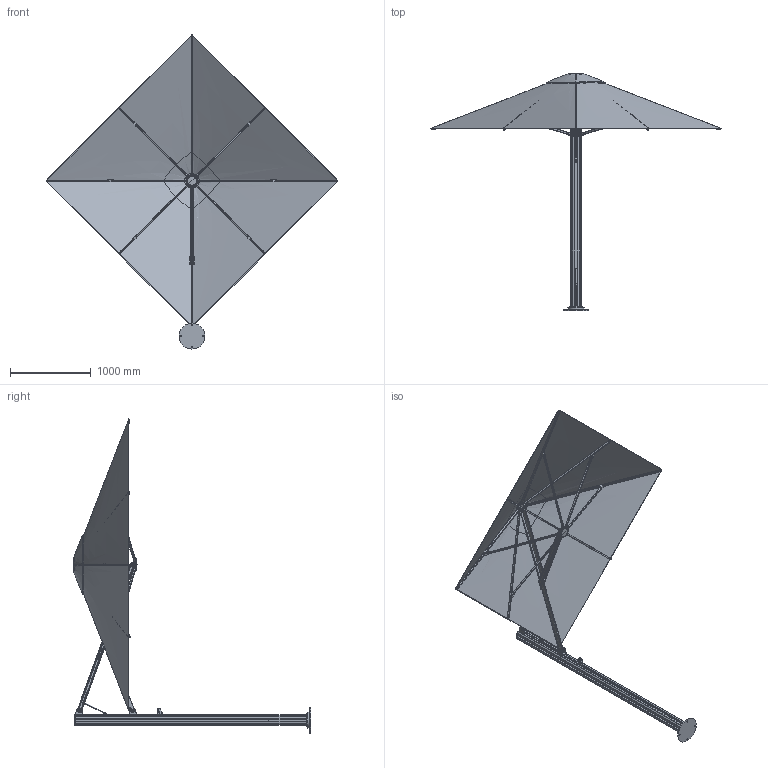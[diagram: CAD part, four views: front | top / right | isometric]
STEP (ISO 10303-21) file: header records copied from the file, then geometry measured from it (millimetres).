
FILE_DESCRIPTION (( 'STEP AP203' ), '1' );
FILE_NAME ('Unity 2.5M CNR SQ Uno.STEP', '2020-06-18T22:19:11', ( '' ), ( '' ), 'SwSTEP 2.0', 'SolidWorks 2017', '' );
FILE_SCHEMA (( 'CONFIG_CONTROL_DESIGN' ));
Length unit declared in the file: millimetre
Products named in the file (49): SMP_UM - 110166; SMP_UM - 110313_Default<As Machined>; SMP_UM - 110081; SMP_UM - 110070; SMP_UM - 110084; SMP_UM - 110075; SMP_UM - 110088; SMP_UM - 110207; SMP_UM - 110063; SMP_UM - 110110; SMP_UM - 110117; SMP_UM - 110168; SMP_UM - 010024_Canopy Only-OPEN; SMP_UM - 110112_ALL HOLES; SMP_UM - 110085; SMP_UM - 010264 - 2.5M Fabric Canopy; SMP_UM - 110098; SMP_UM - 110093; SMP_UM - 110116; SMP_UM - 110092; SMP_UM - 210043 - Gastec Spring_Extended; SMP_UM - 110065; SMP_UM - 110079; SMP_UM - 110131; SMP_UM - 110089; SMP_UM - 110060; SMP_UM - 110080; SMP_UM - 110069; SMP_UM - 110064; SMP_UM - 110206; SMP_UM - 110066; SMP_UM - 110083b; SMP_UM - 110126 (2); SMP_UM - 110184; socket button head cap screw_am_B18.3.4M - 5 x 0.8 x 16 SBHCS --N; SMP_UM - 110183; SMP_UM - 210036; SMP_UM - 110096_PD; SMP_UM - 110059; Unity 2.5M CNR SQ Uno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
Assembly tree (69 placements, depth 4):
  Unity 2.5M CNR SQ Uno
    SMP_UM - 110116
      SMP_UM - 110112_ALL HOLES
    SMP_UM - 110123
      SMP_UM - 110313_Default<As Machined>
    SMP_UM - 110222
    SMP_UM - 110126 (2)
    SMP_UM - 010024_Canopy Only-OPEN
      SMP_UM - 110059
        SMP_UM - 110081
        SMP_UM - 110080  x2
      SMP_UM - 110060
        SMP_UM - 110083
        SMP_UM - 110084
        SMP_UM - 210023
        socket button head cap screw_am_B18.3.4M - 5 x 0.8 x 16 SBHCS --N
        SMP_UM - 210036
        SMP_UM - 110085  x2
        SMP_UM - 110083b
      SMP_UM - 110064
        SMP_UM - 110092
      SMP_UM - 110063
        SMP_UM - 110092
        SMP_UM - 110093
        SMP_UM - 110094
        SMP_UM - 110110
      SMP_UM - 110166  x3
        SMP_UM - 110182
        SMP_UM - 110089
        SMP_UM - 110088
        SMP_UM - 110131
      SMP_UM - 110206  x3
        SMP_UM - 110183
        SMP_UM - 110089
      SMP_UM - 110066
        SMP_UM - 110098
        SMP_UM - 110075
        SMP_UM - 110096_PD
        SMP_UM - 110102_Stretched
      SMP_UM - 210043 - Gastec Spring_Extended
      SMP_UM - 110207  x4
        SMP_UM - 110184
        SMP_UM - 110088
        SMP_UM - 110131
      SMP_UM - 110167  x4
        SMP_UM - 110185
        SMP_UM - 110089
      SMP_UM - 110168
        SMP_UM - 110075
        SMP_UM - 110079
      SMP_UM - 010264 - 2.5M Fabric Canopy
    SMP_UM - 110117
    SMP_UM - 110065  x2
      SMP_UM - 110070
      SMP_UM - 110069
Bounding box: 3622 x 2943.5 x 3899.54 mm (x, y, z)
Volume: 61426849.2 mm3; surface area: 21171408.6 mm2
Topology: 80 solids, 82 shells, 1714 faces, 4208 edges, 2651 vertices
Faces by surface type: cylinder 577, plane 484, bspline 295, cone 276, torus 74, sphere 8
Entity records: 62560 total; most frequent: CARTESIAN_POINT 32893, ORIENTED_EDGE 5296, DIRECTION 4664, EDGE_CURVE 2648, AXIS2_PLACEMENT_3D 1860, VERTEX_POINT 1636, EDGE_LOOP 1130, ADVANCED_FACE 1091
